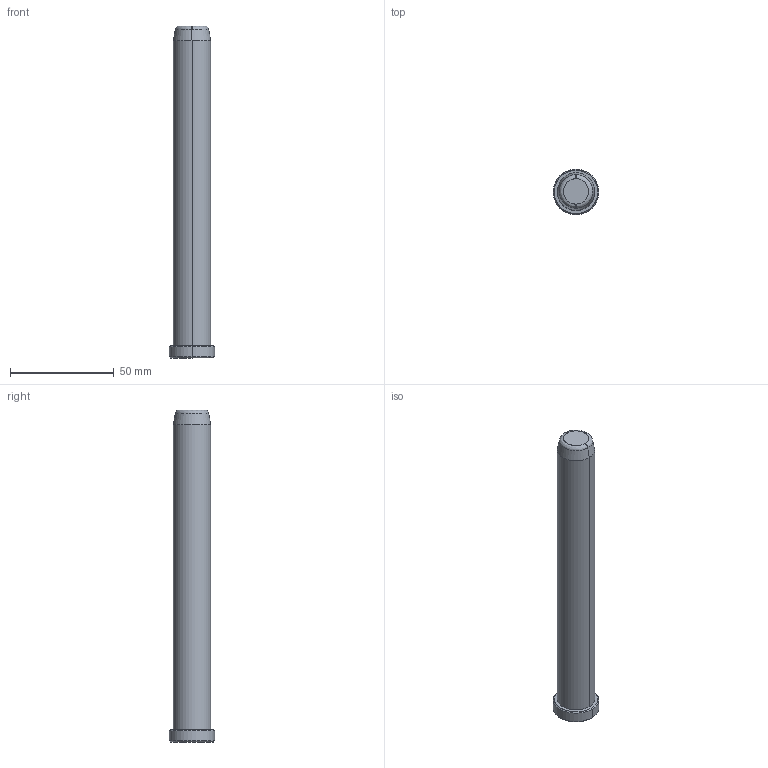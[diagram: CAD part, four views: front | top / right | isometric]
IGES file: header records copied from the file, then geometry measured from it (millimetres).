
Start section: START RECORD GO HERE.
Global section: file name: B81818160.igs; native system: DASSAULT SYSTEMES CATIA V5 R20 - www.3ds.com; preprocessor: CATIA Version 5 Release 20 ; author: Utente; organization: NB04-ASUS; date: 20200419.172254; units: millimetre
Bounding box: 22 x 22 x 160 mm (x, y, z)
Surface area: 9727 mm2 (no closed solid volume)
Topology: 0 solids, 0 shells, 17 faces, 68 edges, 68 vertices
Faces by surface type: revolution 14, plane 3
